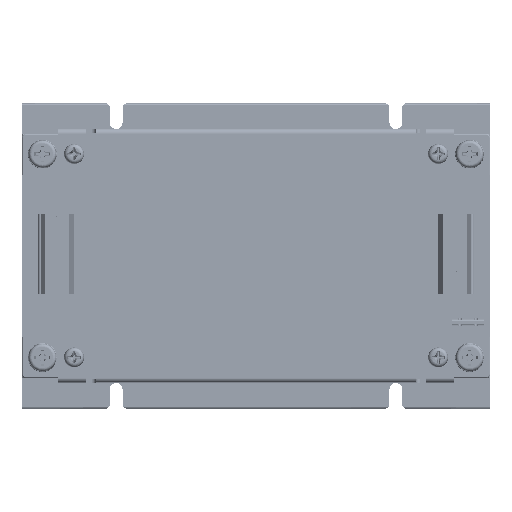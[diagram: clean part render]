
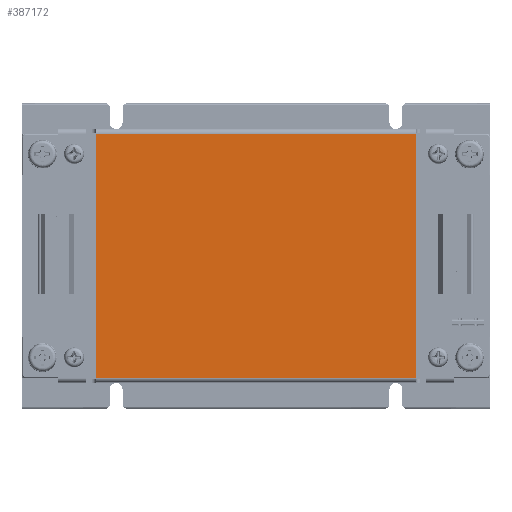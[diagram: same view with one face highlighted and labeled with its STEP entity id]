
A CAD part, top view. The second image highlights one B-rep face of the part: STEP entity #387172.
In plain terms, the highlighted planar face has unit normal (0, 0, 1).
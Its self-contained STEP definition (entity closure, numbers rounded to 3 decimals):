
#5063 = ORIENTED_EDGE ( 'NONE', *, *, #216113, .T. ) ;
#22775 = CARTESIAN_POINT ( 'NONE',  ( -23.012, -20.453, 16.7 ) ) ;
#25794 = CARTESIAN_POINT ( 'NONE',  ( 56.988, -20.253, 16.7 ) ) ;
#41971 = AXIS2_PLACEMENT_3D ( 'NONE', #368429, #122855, #207950 ) ;
#51686 = VECTOR ( 'NONE', #149549, 1000. ) ;
#76501 = EDGE_CURVE ( 'NONE', #107293, #386674, #117388, .T. ) ;
#80992 = EDGE_CURVE ( 'NONE', #107293, #122199, #147474, .T. ) ;
#104263 = CARTESIAN_POINT ( 'NONE',  ( -23.012, 40.707, 16.7 ) ) ;
#107293 = VERTEX_POINT ( 'NONE', #258672 ) ;
#110878 = VERTEX_POINT ( 'NONE', #207411 ) ;
#117388 = LINE ( 'NONE', #328695, #51686 ) ;
#122199 = VERTEX_POINT ( 'NONE', #104263 ) ;
#122855 = DIRECTION ( 'NONE',  ( 0., 0., 1. ) ) ;
#147474 = LINE ( 'NONE', #22775, #219382 ) ;
#149549 = DIRECTION ( 'NONE',  ( 1., 0., 0. ) ) ;
#169088 = DIRECTION ( 'NONE',  ( -1., 0., 0. ) ) ;
#171334 = LINE ( 'NONE', #294108, #241795 ) ;
#173003 = ORIENTED_EDGE ( 'NONE', *, *, #310178, .T. ) ;
#207411 = CARTESIAN_POINT ( 'NONE',  ( 56.988, 40.707, 16.7 ) ) ;
#207950 = DIRECTION ( 'NONE',  ( 0., -1., 0. ) ) ;
#211824 = DIRECTION ( 'NONE',  ( 0., 1., 0. ) ) ;
#216113 = EDGE_CURVE ( 'NONE', #110878, #122199, #350304, .T. ) ;
#219382 = VECTOR ( 'NONE', #211824, 1000. ) ;
#241795 = VECTOR ( 'NONE', #386721, 1000. ) ;
#258672 = CARTESIAN_POINT ( 'NONE',  ( -23.012, -20.253, 16.7 ) ) ;
#289119 = ORIENTED_EDGE ( 'NONE', *, *, #80992, .F. ) ;
#294108 = CARTESIAN_POINT ( 'NONE',  ( 56.988, -20.453, 16.7 ) ) ;
#294580 = PLANE ( 'NONE',  #41971 ) ;
#310178 = EDGE_CURVE ( 'NONE', #386674, #110878, #171334, .T. ) ;
#320059 = CARTESIAN_POINT ( 'NONE',  ( 56.988, 40.707, 16.7 ) ) ;
#328695 = CARTESIAN_POINT ( 'NONE',  ( -23.012, -20.253, 16.7 ) ) ;
#328742 = FACE_OUTER_BOUND ( 'NONE', #330218, .T. ) ;
#330218 = EDGE_LOOP ( 'NONE', ( #173003, #5063, #289119, #378219 ) ) ;
#350304 = LINE ( 'NONE', #320059, #396778 ) ;
#368429 = CARTESIAN_POINT ( 'NONE',  ( -23.012, -20.453, 16.7 ) ) ;
#378219 = ORIENTED_EDGE ( 'NONE', *, *, #76501, .T. ) ;
#386674 = VERTEX_POINT ( 'NONE', #25794 ) ;
#386721 = DIRECTION ( 'NONE',  ( 0., 1., 0. ) ) ;
#387172 = ADVANCED_FACE ( 'NONE', ( #328742 ), #294580, .T. ) ;
#396778 = VECTOR ( 'NONE', #169088, 1000. ) ;
